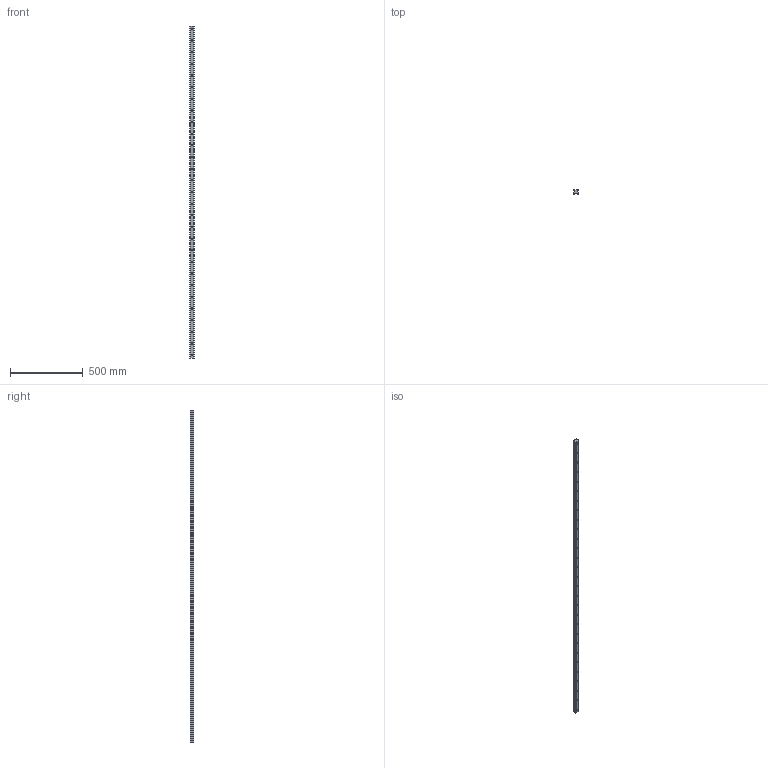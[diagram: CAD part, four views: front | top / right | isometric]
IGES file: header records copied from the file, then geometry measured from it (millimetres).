
Start section: SolidWorks IGES file using analytic representation for surfaces
Global section: file name: C:\Users\IanO\Desktop\Temp File\GENERAL\L1016_v2\L1016.RF35_v2\L1016.RF35_v2_20190612_IGES\L1016.RF35-2280.igs; native system: SolidWorks 2017; preprocessor: SolidWorks 2017; author: IanO; date: 190613.173004; units: millimetre
Bounding box: 34 x 26 x 2280 mm (x, y, z)
Surface area: 297425.9 mm2 (no closed solid volume)
Topology: 0 solids, 0 shells, 229 faces, 3648 edges, 3590 vertices
Faces by surface type: revolution 178, bspline 51
